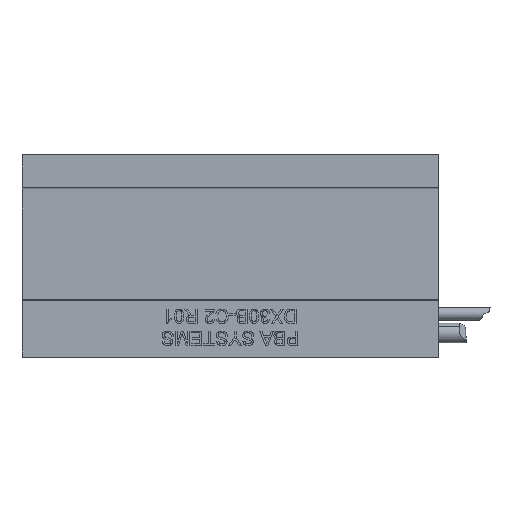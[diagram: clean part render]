
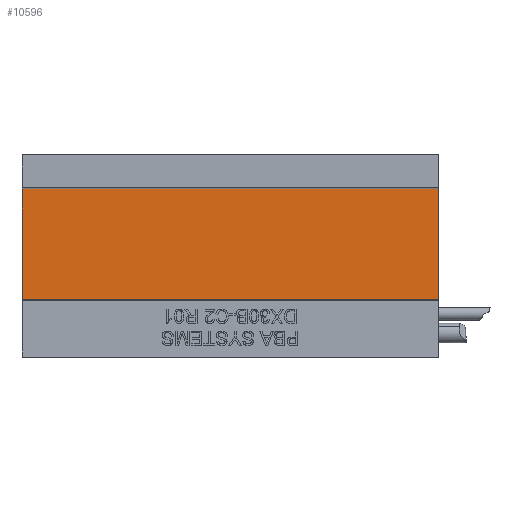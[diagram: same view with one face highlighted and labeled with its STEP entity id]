
A CAD part, top view. The second image highlights one B-rep face of the part: STEP entity #10596.
In plain terms, the highlighted planar face has unit normal (0, 0, 1) as drawn and (-1, 0, 0) by its records, which use the part's own axes.
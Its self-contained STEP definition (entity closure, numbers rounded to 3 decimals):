
#529 = DIRECTION ( 'NONE',  ( 0., 1., 0. ) ) ;
#1249 = AXIS2_PLACEMENT_3D ( 'NONE', #18754, #1741, #21652 ) ;
#1443 = VERTEX_POINT ( 'NONE', #3530 ) ;
#1741 = DIRECTION ( 'NONE',  ( 1., 0., 0. ) ) ;
#3530 = CARTESIAN_POINT ( 'NONE',  ( -3.6, 42.1, 0. ) ) ;
#3656 = CARTESIAN_POINT ( 'NONE',  ( -3.6, 42.1, 0. ) ) ;
#4218 = CARTESIAN_POINT ( 'NONE',  ( -3.6, 9.9, 121. ) ) ;
#6394 = VECTOR ( 'NONE', #7081, 1000. ) ;
#7081 = DIRECTION ( 'NONE',  ( 0., 0., -1. ) ) ;
#8799 = ORIENTED_EDGE ( 'NONE', *, *, #25895, .T. ) ;
#8992 = CARTESIAN_POINT ( 'NONE',  ( -3.6, 42.1, 121. ) ) ;
#10596 = ADVANCED_FACE ( 'NONE', ( #11771 ), #13071, .F. ) ;
#10964 = VECTOR ( 'NONE', #14191, 1000. ) ;
#11341 = VERTEX_POINT ( 'NONE', #14725 ) ;
#11771 = FACE_OUTER_BOUND ( 'NONE', #27585, .T. ) ;
#12283 = DIRECTION ( 'NONE',  ( 0., 1., 0. ) ) ;
#13071 = PLANE ( 'NONE',  #1249 ) ;
#14191 = DIRECTION ( 'NONE',  ( 0., 0., -1. ) ) ;
#14725 = CARTESIAN_POINT ( 'NONE',  ( -3.6, 42.1, 121. ) ) ;
#16116 = EDGE_CURVE ( 'NONE', #19220, #11341, #31441, .T. ) ;
#18110 = EDGE_CURVE ( 'NONE', #33102, #1443, #33159, .T. ) ;
#18754 = CARTESIAN_POINT ( 'NONE',  ( -3.6, 42.1, 121. ) ) ;
#19220 = VERTEX_POINT ( 'NONE', #28894 ) ;
#21652 = DIRECTION ( 'NONE',  ( 0., 0., 1. ) ) ;
#23882 = VECTOR ( 'NONE', #529, 1000. ) ;
#25614 = VECTOR ( 'NONE', #12283, 1000. ) ;
#25895 = EDGE_CURVE ( 'NONE', #11341, #1443, #26099, .T. ) ;
#26099 = LINE ( 'NONE', #30957, #10964 ) ;
#26408 = ORIENTED_EDGE ( 'NONE', *, *, #35149, .F. ) ;
#27585 = EDGE_LOOP ( 'NONE', ( #29119, #26408, #28106, #8799 ) ) ;
#27731 = CARTESIAN_POINT ( 'NONE',  ( -3.6, 9.9, 0. ) ) ;
#28106 = ORIENTED_EDGE ( 'NONE', *, *, #16116, .T. ) ;
#28894 = CARTESIAN_POINT ( 'NONE',  ( -3.6, 9.9, 121. ) ) ;
#29077 = LINE ( 'NONE', #4218, #6394 ) ;
#29119 = ORIENTED_EDGE ( 'NONE', *, *, #18110, .F. ) ;
#30957 = CARTESIAN_POINT ( 'NONE',  ( -3.6, 42.1, 121. ) ) ;
#31441 = LINE ( 'NONE', #8992, #23882 ) ;
#33102 = VERTEX_POINT ( 'NONE', #27731 ) ;
#33159 = LINE ( 'NONE', #3656, #25614 ) ;
#35149 = EDGE_CURVE ( 'NONE', #19220, #33102, #29077, .T. ) ;
